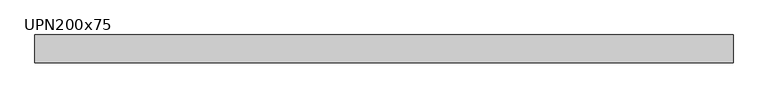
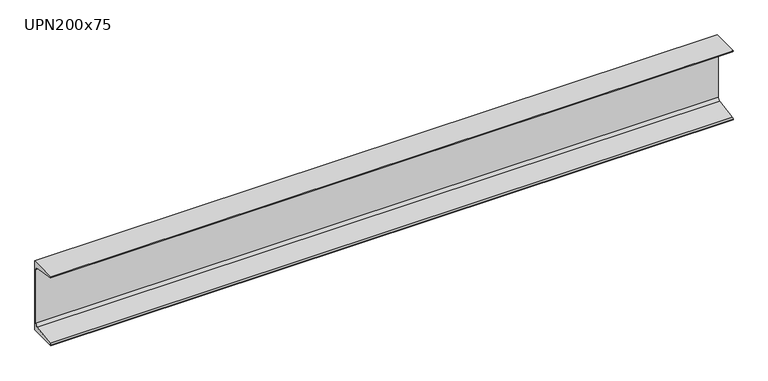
"""IFC4 building model written with IfcOpenShell, lengths in millimetres: beam geometry, M_MC Shapes : UPN200x75."""

from ifc_helpers import new_model, si_unit, point, frame, frame_2d, origin, place, context, project, spatial, polyline, circle_curve, trimmed, segment, composite_curve, outline, extrude, source, transform, mapped, element, save


def upn200x75_e305e8eb(model_context):
    return source(origin(), model_context, "Body", "SweptSolid", [
        extrude(outline(composite_curve([segment(polyline([(10.9, 100.0), (10.9, -100.0), (-64.1, -100.0), (-64.1, -99.0253247)]), True, "CONTINUOUS"), segment(trimmed(circle_curve(frame_2d((-60.15, -99.0253247)), 3.95), [point((-64.1, -99.0253247))], [point((-60.7993773, -95.1290689))], False, "CARTESIAN"), True, "CONTINUOUS"), segment(polyline([(-60.7993773, -95.1290689), (-0.2512455, -85.0376935)]), True, "CONTINUOUS"), segment(trimmed(circle_curve(frame_2d((-1.55, -77.2451819)), 7.9), [point((-0.2512455, -85.0376935))], [point((6.35, -77.2451819))], True, "CARTESIAN"), True, "CONTINUOUS"), segment(polyline([(6.35, -77.2451819), (6.35, 77.2451819)]), True, "CONTINUOUS"), segment(trimmed(circle_curve(frame_2d((-1.55, 77.2451819)), 7.9), [point((6.35, 77.2451819))], [point((-0.2512455, 85.0376935))], True, "CARTESIAN"), True, "CONTINUOUS"), segment(polyline([(-0.2512455, 85.0376935), (-60.7993773, 95.1290689)]), True, "CONTINUOUS"), segment(trimmed(circle_curve(frame_2d((-60.15, 99.0253247)), 3.95), [point((-60.7993773, 95.1290689))], [point((-64.1, 99.0253247))], False, "CARTESIAN"), True, "CONTINUOUS"), segment(polyline([(-64.1, 99.0253247), (-64.1, 100.0), (10.9, 100.0)]), True, "CONTINUOUS")], self_intersect=False)), frame((-934.0, 0.0, 0.0), z_axis=(1.0, 0.0, 0.0), x_axis=(0.0, 1.0, 0.0)), (0.0, 0.0, 1.0), 1868.0),
    ])


if __name__ == "__main__":
    model = new_model("IFC4")
    model_context = context("Model", 3, world=origin())
    ifc_project = project(units=[si_unit("LENGTHUNIT", "METRE", prefix="MILLI")], contexts=[model_context])
    site = spatial("IfcSite", under=ifc_project)
    building = spatial("IfcBuilding", under=site)
    placement = place(None, origin())
    upn200x75_shape = upn200x75_e305e8eb(model_context)
    element("IfcBeam", 1, ObjectType="M_MC Shapes : UPN200x75", at=placement, inside=building, context=model_context, shape_type="MappedRepresentation", body=[
        mapped(upn200x75_shape, transform((0.0, 0.0, 0.0), x_axis=(1.0, 0.0, 0.0), y_axis=(0.0, 1.0, 0.0), z_axis=(0.0, 0.0, 1.0))),
    ])
    save(model, "model.ifc")
